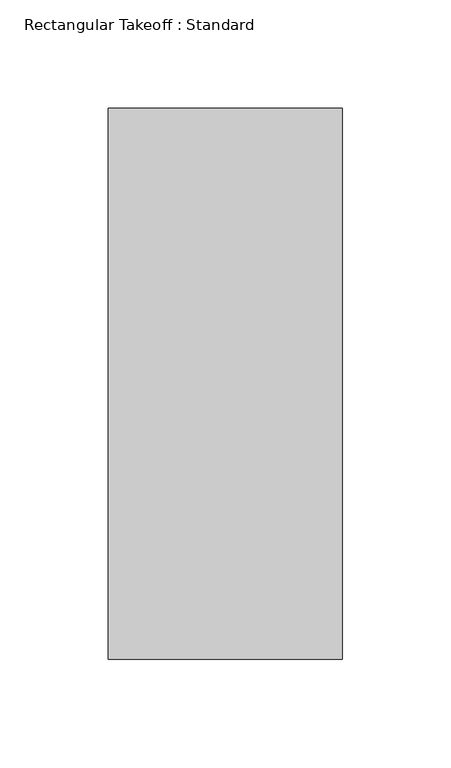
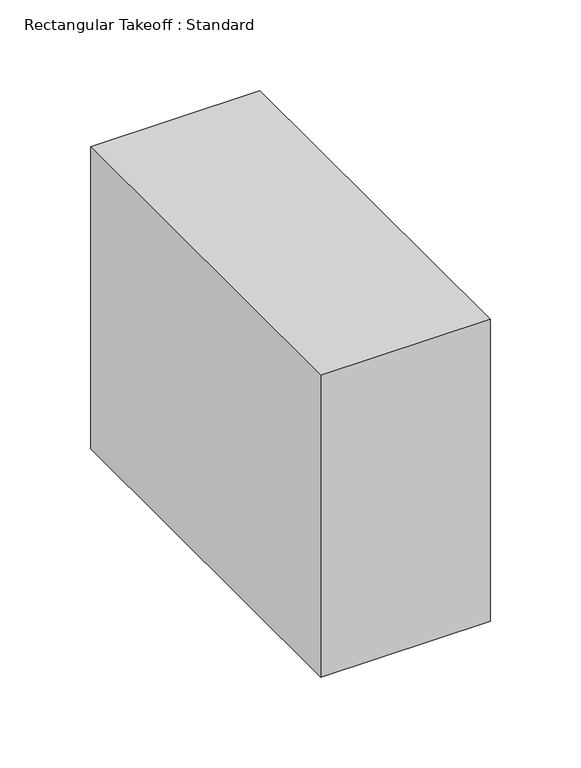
"""IFC4 building model written with IfcOpenShell, lengths in millimetres: duct fitting geometry, Rectangular Takeoff : Standard."""

from ifc_helpers import new_model, si_unit, frame, origin, place, context, project, spatial, polyline, outline, extrude, source, transform, mapped, element, save


def rectangular_takeoff_standard_ae128e4c(model_context):
    return source(origin(), model_context, "Body", "SweptSolid", [
        extrude(outline(polyline([(-6.096, 127.0), (101.6, 127.0), (101.6, -127.0), (-6.096, -127.0), (-6.096, 127.0)])), frame((0.0, 0.0, -101.6), z_axis=(0.0, 0.0, 1.0), x_axis=(1.0, 0.0, 0.0)), (0.0, 0.0, 1.0), 203.2),
    ])


if __name__ == "__main__":
    model = new_model("IFC4")
    model_context = context("Model", 3, world=origin())
    ifc_project = project(units=[si_unit("LENGTHUNIT", "METRE", prefix="MILLI")], contexts=[model_context])
    site = spatial("IfcSite", under=ifc_project)
    building = spatial("IfcBuilding", under=site)
    placement = place(None, origin())
    rectangular_takeoff_standard_shape = rectangular_takeoff_standard_ae128e4c(model_context)
    element("IfcDuctFitting", 1, ObjectType="Rectangular Takeoff : Standard", at=placement, inside=building, context=model_context, shape_type="MappedRepresentation", body=[
        mapped(rectangular_takeoff_standard_shape, transform((0.0, 0.0, 0.0), x_axis=(1.0, 0.0, 0.0), y_axis=(0.0, 1.0, 0.0), z_axis=(0.0, 0.0, 1.0))),
    ])
    save(model, "model.ifc")
